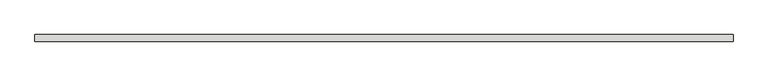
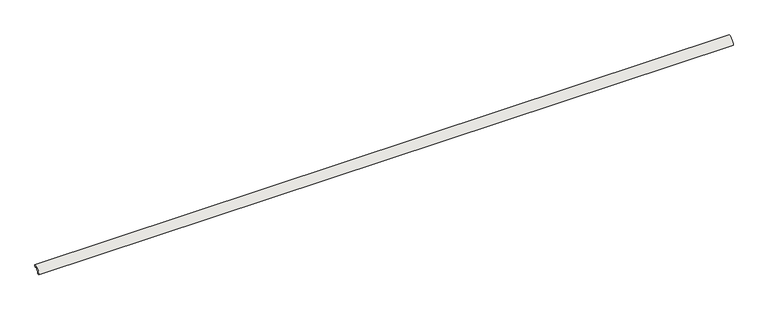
"""IFC4 building model written with IfcOpenShell, lengths in millimetres: slab geometry, ROSA GRES_183 : Pieza 183_Serena_Ocra_Anti-Slip."""

import ifcopenshell
import ifcopenshell.guid

model = None  # the IFC model being written
_history = None  # IfcOwnerHistory: only IFC2X3 demands one
_inside = {}  # id of a spatial element -> (the spatial element, [elements in it])
_under = {}  # id of a project, library or spatial element -> (it, [spatial elements below it])
_declared = {}  # id of a project -> (the project, [libraries it declares])
_typed = {}  # id of a type object -> (the type object, [elements of that type])
_made_of = {}  # id of a material, layer set ... -> (it, [elements and type objects made of it])


def new_model(schema):
    """Start an empty IFC model of exactly this schema.

    Asked for "IFC4X3", IfcOpenShell would pick the latest addendum, in which some entities
    have other attributes; the version numbers below select the first issue.
    IFC2X3 requires an IfcOwnerHistory on every rooted entity: one is made here for all.
    """
    global model, _history
    if schema == "IFC4X3":
        model = ifcopenshell.file(schema_version=(4, 3, 0, 0))
    else:
        model = ifcopenshell.file(schema=schema)
    _inside.clear()
    _under.clear()
    _declared.clear()
    _typed.clear()
    _made_of.clear()
    _history = None
    if model.schema == "IFC2X3":
        org = make("IfcOrganization", Name="unknown")
        user = make(
            "IfcPersonAndOrganization",
            ThePerson=make("IfcPerson", FamilyName="unknown"),
            TheOrganization=org,
        )
        app = make(
            "IfcApplication",
            ApplicationDeveloper=org,
            Version="unknown",
            ApplicationFullName="unknown",
            ApplicationIdentifier="unknown",
        )
        _history = make(
            "IfcOwnerHistory",
            OwningUser=user,
            OwningApplication=app,
            ChangeAction="ADDED",
            CreationDate=0,
        )
    return model


def make(cls, **values):
    """One entity of the class cls with the attributes given. An attribute that is None is left unset."""
    return model.create_entity(
        cls, **{name: value for name, value in values.items() if value is not None}
    )


def rooted(cls, **values):
    """An entity with a GlobalId (a new one), such as an element, a storey or a relation."""
    return make(cls, GlobalId=ifcopenshell.guid.new(), OwnerHistory=_history, **values)


def si_unit(unit_type, name, prefix=None):
    """IfcSIUnit, for example si_unit("LENGTHUNIT", "METRE", prefix="MILLI")."""
    return make("IfcSIUnit", UnitType=unit_type, Prefix=prefix, Name=name)


def assignment(units):
    """IfcUnitAssignment: the units of a project."""
    return None if units is None else make("IfcUnitAssignment", Units=units)


def point(xyz):
    """IfcCartesianPoint."""
    return None if xyz is None else make("IfcCartesianPoint", Coordinates=xyz)


def direction(xyz):
    """IfcDirection."""
    return None if xyz is None else make("IfcDirection", DirectionRatios=xyz)


def frame(location, z_axis=None, x_axis=None):
    """IfcAxis2Placement3D, a coordinate frame: its origin and axes. An axis left out is left unset."""
    return make(
        "IfcAxis2Placement3D",
        Location=point(location),
        Axis=direction(z_axis),
        RefDirection=direction(x_axis),
    )


def frame_2d(location, x_axis=None):
    """IfcAxis2Placement2D, a coordinate frame in the plane: its origin and x axis."""
    return make(
        "IfcAxis2Placement2D", Location=point(location), RefDirection=direction(x_axis)
    )


def origin():
    """The frame at (0, 0, 0) with its axes left unset."""
    return frame((0.0, 0.0, 0.0))


def origin_2d():
    """The frame at (0, 0) in the plane with its x axis left unset."""
    return frame_2d((0.0, 0.0))


def place(relative_to, where):
    """IfcLocalPlacement: puts the frame where relative to a parent placement (None: the world)."""
    return make(
        "IfcLocalPlacement", PlacementRelTo=relative_to, RelativePlacement=where
    )


def context(
    kind, dimensions, precision=None, world=None, true_north=None, identifier=None
):
    """IfcGeometricRepresentationContext, for example the 3D "Model" context."""
    return make(
        "IfcGeometricRepresentationContext",
        ContextIdentifier=identifier,
        ContextType=kind,
        CoordinateSpaceDimension=dimensions,
        Precision=precision,
        WorldCoordinateSystem=world,
        TrueNorth=true_north,
    )


def project(units=None, contexts=None):
    """IfcProject with its units and contexts."""
    return rooted(
        "IfcProject",
        Name="project",
        RepresentationContexts=contexts,
        UnitsInContext=assignment(units),
    )


def spatial(cls, under=None, at=None, **own):
    """A site, building, storey or space (cls), placed at a placement, below another one or the project."""
    s = rooted(cls, ObjectPlacement=at, **own)
    if under is not None:
        _under.setdefault(under.id(), (under, []))[1].append(s)
    return s


def polyline(points):
    """IfcPolyline through the points."""
    return make("IfcPolyline", Points=[point(p) for p in points])


def circle_curve(where, radius):
    """IfcCircle in the frame where."""
    return make("IfcCircle", Position=where, Radius=radius)


def trimmed(basis, trim1, trim2, sense, master):
    """IfcTrimmedCurve: the piece of a basis curve between two trims."""
    return make(
        "IfcTrimmedCurve",
        BasisCurve=basis,
        Trim1=trim1,
        Trim2=trim2,
        SenseAgreement=sense,
        MasterRepresentation=master,
    )


def segment(curve, same_sense, transition):
    """IfcCompositeCurveSegment."""
    return make(
        "IfcCompositeCurveSegment",
        Transition=transition,
        SameSense=same_sense,
        ParentCurve=curve,
    )


def composite_curve(segments, self_intersect=None):
    """IfcCompositeCurve: segments joined end to end."""
    return make("IfcCompositeCurve", Segments=segments, SelfIntersect=self_intersect)


def outline(outer, holes=None, kind="AREA"):
    """IfcArbitraryClosedProfileDef: a profile drawn as a closed curve; with holes, ...WithVoids."""
    if holes is None:
        return make("IfcArbitraryClosedProfileDef", ProfileType=kind, OuterCurve=outer)
    return make(
        "IfcArbitraryProfileDefWithVoids",
        ProfileType=kind,
        OuterCurve=outer,
        InnerCurves=holes,
    )


def extrude(swept, where, along, depth):
    """IfcExtrudedAreaSolid: the profile swept, set in the frame where, extruded along a direction by depth."""
    return make(
        "IfcExtrudedAreaSolid",
        SweptArea=swept,
        Position=where,
        ExtrudedDirection=direction(along),
        Depth=depth,
    )


def shape(context_of_items, identifier, shape_type, items):
    """IfcShapeRepresentation: the items that make up one representation, for example the "Body"."""
    return make(
        "IfcShapeRepresentation",
        ContextOfItems=context_of_items,
        RepresentationIdentifier=identifier,
        RepresentationType=shape_type,
        Items=items,
    )


def source(mapping_origin, context_of_items, identifier, shape_type, items):
    """IfcRepresentationMap: a shape defined once, which mapped items show again and again."""
    return make(
        "IfcRepresentationMap",
        MappingOrigin=mapping_origin,
        MappedRepresentation=shape(context_of_items, identifier, shape_type, items),
    )


def transform(
    local_origin,
    x_axis=None,
    y_axis=None,
    z_axis=None,
    scale=None,
    scale2=None,
    scale3=None,
    uniform=True,
):
    """IfcCartesianTransformationOperator3D, or its non-uniform kind. x_axis, y_axis, z_axis: its Axis1, 2, 3."""
    if uniform:
        return make(
            "IfcCartesianTransformationOperator3D",
            Axis1=direction(x_axis),
            Axis2=direction(y_axis),
            LocalOrigin=point(local_origin),
            Scale=scale,
            Axis3=direction(z_axis),
        )
    return make(
        "IfcCartesianTransformationOperator3DnonUniform",
        Axis1=direction(x_axis),
        Axis2=direction(y_axis),
        LocalOrigin=point(local_origin),
        Scale=scale,
        Axis3=direction(z_axis),
        Scale2=scale2,
        Scale3=scale3,
    )


def mapped(mapping_source, mapping_target):
    """IfcMappedItem: shows the shape of a source again, moved by a transform."""
    return make(
        "IfcMappedItem", MappingSource=mapping_source, MappingTarget=mapping_target
    )


def made_of(thing, what):
    """Note that an element or type object is made of a material, layer set ...; save() writes the relation."""
    if what is not None:
        _made_of.setdefault(what.id(), (what, []))[1].append(thing)
    return thing


def element(
    cls,
    number,
    at=None,
    inside=None,
    cuts=None,
    type_object=None,
    material=None,
    context=None,
    identifier="Body",
    shape_type=None,
    held_by="IfcProductDefinitionShape",
    body=None,
    shapes=None,
    **own,
):
    """One element of the class cls, such as IfcWall. Its Tag is "e" and its number.

    at: its placement. inside: the storey or other place that contains it. cuts: it is an
    opening in that element (IfcRelVoidsElement). A single representation is given by context,
    identifier, shape_type and body (its items); several are given by shapes. held_by: the class
    of the entity that holds the representations. save() writes the other relations.
    """
    e = rooted(cls, Tag="e%d" % number, ObjectPlacement=at, **own)
    if body is not None:
        shapes = [shape(context, identifier, shape_type, body)]
    if shapes is not None:
        e.Representation = make(held_by, Representations=shapes)
    if inside is not None:
        _inside.setdefault(inside.id(), (inside, []))[1].append(e)
    if cuts is not None:
        rooted(
            "IfcRelVoidsElement", RelatingBuildingElement=cuts, RelatedOpeningElement=e
        )
    if type_object is not None:
        _typed.setdefault(type_object.id(), (type_object, []))[1].append(e)
    return made_of(e, material)


def aggregate(whole, parts):
    """IfcRelAggregates: a whole, such as a stair, and the parts it consists of."""
    return rooted("IfcRelAggregates", RelatingObject=whole, RelatedObjects=parts)


def save(model, path):
    """Write the relations noted so far, then the file.

    IfcRelAggregates (storeys below a building ...), IfcRelContainedInSpatialStructure (elements
    in a storey), IfcRelDefinesByType, IfcRelAssociatesMaterial and IfcRelDeclares: one each for
    every whole, place, type object, material and project.
    """
    for whole, parts in _under.values():
        aggregate(whole, parts)
    for where, things in _inside.values():
        rooted(
            "IfcRelContainedInSpatialStructure",
            RelatedElements=things,
            RelatingStructure=where,
        )
    for kind, things in _typed.values():
        rooted("IfcRelDefinesByType", RelatedObjects=things, RelatingType=kind)
    for what, things in _made_of.values():
        rooted("IfcRelAssociatesMaterial", RelatedObjects=things, RelatingMaterial=what)
    for by, libraries in _declared.values():
        rooted("IfcRelDeclares", RelatingContext=by, RelatedDefinitions=libraries)
    model.write(path)


def slab_2f73c0f9(model_context):
    return source(origin(), model_context, "Body", "SweptSolid", [
        extrude(outline(composite_curve([segment(polyline([(0.0, 40.0), (0.0, 30.0265886)]), True, "CONTINUOUS"), segment(trimmed(circle_curve(frame_2d((-0.0044453, 0.0044453)), 30.0221435), [point((0.0, 30.0265886))], [point((-30.0265886, 0.0))], True, "CARTESIAN"), True, "CONTINUOUS"), segment(polyline([(-30.0265886, 0.0), (-40.0, 0.0)]), True, "CONTINUOUS"), segment(trimmed(circle_curve(origin_2d(), 40.0), [point((-40.0, 0.0))], [point((0.0, 40.0))], False, "CARTESIAN"), True, "CONTINUOUS")], self_intersect=False)), frame((0.0, 0.0, 0.0), z_axis=(1.0, 0.0, 0.0), x_axis=(0.0, 1.0, 0.0)), (0.0, 0.0, 1.0), 4181.0),
    ])


if __name__ == "__main__":
    model = new_model("IFC4")
    model_context = context("Model", 3, world=origin())
    ifc_project = project(units=[si_unit("LENGTHUNIT", "METRE", prefix="MILLI")], contexts=[model_context])
    site = spatial("IfcSite", under=ifc_project)
    building = spatial("IfcBuilding", under=site)
    placement = place(None, origin())
    slab_shape = slab_2f73c0f9(model_context)
    element("IfcSlab", 1, ObjectType="ROSA GRES_183 : Pieza 183_Serena_Ocra_Anti-Slip", at=placement, inside=building, context=model_context, shape_type="MappedRepresentation", body=[
        mapped(slab_shape, transform((0.0, 0.0, 0.0), x_axis=(1.0, 0.0, 0.0), y_axis=(0.0, 1.0, 0.0), z_axis=(0.0, 0.0, 1.0))),
    ])
    save(model, "model.ifc")
